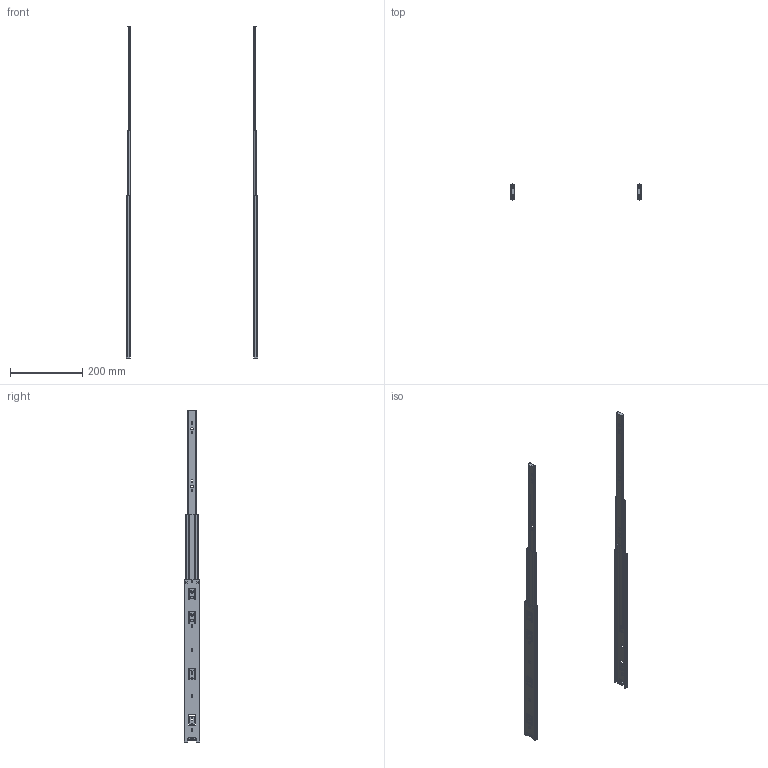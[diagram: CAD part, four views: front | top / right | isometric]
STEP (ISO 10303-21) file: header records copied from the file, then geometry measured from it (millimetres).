
FILE_DESCRIPTION(/* description */ (''),/* implementation_level */ '2;1');
FILE_NAME(/* name */ 'D:\$Workingspace\Designs\Katalog\Cadsoft\GTV Prowadnice\Prowadnice GTV_bryły 3D\PK-0H45450GX1_wysunieta.stp',/* time_stamp */ '2016-11-22T12:16:55+01:00',/* author */ ('tomaszw'),/* organization */ (''),/* preprocessor_version */ 'ST-DEVELOPER v16.1',/* originating_system */ 'Autodesk Inventor 2016',/* authorisation */ '');
FILE_SCHEMA (('AUTOMOTIVE_DESIGN { 1 0 10303 214 3 1 1 }'));
Length unit declared in the file: millimetre
Products named in the file (5): Blokada_5; PK-0H45_1-450-GX1; PK-0H45_2-450-GX1; PK-0H45_3-450-GX1; PK-0H45-_-GX1
Assembly tree (8 placements, depth 2):
  PK-0H45-_-GX1
    Blokada_5  x2
    PK-0H45_1-450-GX1  x2
    PK-0H45_2-450-GX1  x2
    PK-0H45_3-450-GX1  x2
Bounding box: 364 x 43.8 x 919 mm (x, y, z)
Volume: 132062.8 mm3; surface area: 269567.4 mm2
Topology: 8 solids, 8 shells, 510 faces, 1474 edges, 980 vertices
Faces by surface type: cylinder 258, plane 248, cone 4
Full cylindrical faces by diameter (mm): 4.5 x6, 5 x2, 6 x8, 7 x4
Entity records: 8939 total; most frequent: DIRECTION 1511, CARTESIAN_POINT 1511, ORIENTED_EDGE 1454, EDGE_CURVE 727, AXIS2_PLACEMENT_3D 524, VERTEX_POINT 490, LINE 463, VECTOR 463
